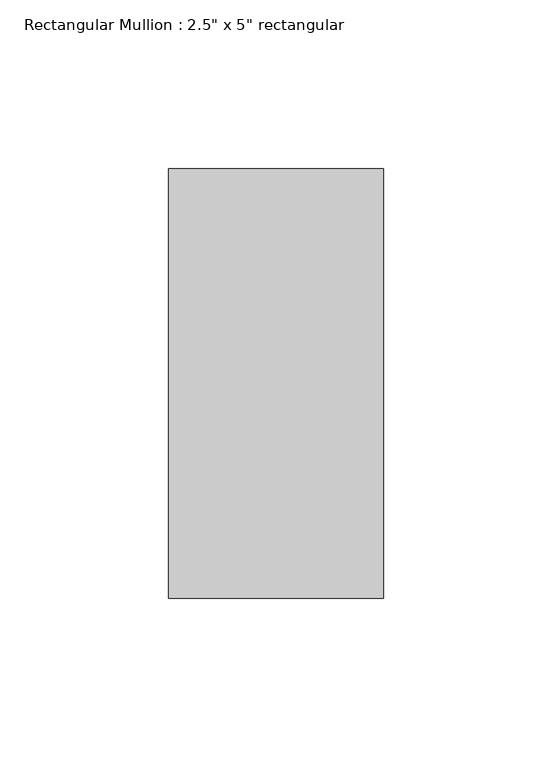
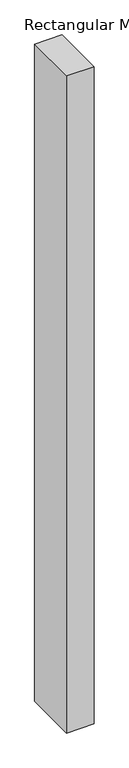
"""IFC4 building model written with IfcOpenShell, lengths in millimetres: member geometry."""

import ifcopenshell
import ifcopenshell.guid

model = None  # the IFC model being written
_history = None  # IfcOwnerHistory: only IFC2X3 demands one
_inside = {}  # id of a spatial element -> (the spatial element, [elements in it])
_under = {}  # id of a project, library or spatial element -> (it, [spatial elements below it])
_declared = {}  # id of a project -> (the project, [libraries it declares])
_typed = {}  # id of a type object -> (the type object, [elements of that type])
_made_of = {}  # id of a material, layer set ... -> (it, [elements and type objects made of it])


def new_model(schema):
    """Start an empty IFC model of exactly this schema.

    Asked for "IFC4X3", IfcOpenShell would pick the latest addendum, in which some entities
    have other attributes; the version numbers below select the first issue.
    IFC2X3 requires an IfcOwnerHistory on every rooted entity: one is made here for all.
    """
    global model, _history
    if schema == "IFC4X3":
        model = ifcopenshell.file(schema_version=(4, 3, 0, 0))
    else:
        model = ifcopenshell.file(schema=schema)
    _inside.clear()
    _under.clear()
    _declared.clear()
    _typed.clear()
    _made_of.clear()
    _history = None
    if model.schema == "IFC2X3":
        org = make("IfcOrganization", Name="unknown")
        user = make(
            "IfcPersonAndOrganization",
            ThePerson=make("IfcPerson", FamilyName="unknown"),
            TheOrganization=org,
        )
        app = make(
            "IfcApplication",
            ApplicationDeveloper=org,
            Version="unknown",
            ApplicationFullName="unknown",
            ApplicationIdentifier="unknown",
        )
        _history = make(
            "IfcOwnerHistory",
            OwningUser=user,
            OwningApplication=app,
            ChangeAction="ADDED",
            CreationDate=0,
        )
    return model


def make(cls, **values):
    """One entity of the class cls with the attributes given. An attribute that is None is left unset."""
    return model.create_entity(
        cls, **{name: value for name, value in values.items() if value is not None}
    )


def rooted(cls, **values):
    """An entity with a GlobalId (a new one), such as an element, a storey or a relation."""
    return make(cls, GlobalId=ifcopenshell.guid.new(), OwnerHistory=_history, **values)


def si_unit(unit_type, name, prefix=None):
    """IfcSIUnit, for example si_unit("LENGTHUNIT", "METRE", prefix="MILLI")."""
    return make("IfcSIUnit", UnitType=unit_type, Prefix=prefix, Name=name)


def assignment(units):
    """IfcUnitAssignment: the units of a project."""
    return None if units is None else make("IfcUnitAssignment", Units=units)


def point(xyz):
    """IfcCartesianPoint."""
    return None if xyz is None else make("IfcCartesianPoint", Coordinates=xyz)


def direction(xyz):
    """IfcDirection."""
    return None if xyz is None else make("IfcDirection", DirectionRatios=xyz)


def frame(location, z_axis=None, x_axis=None):
    """IfcAxis2Placement3D, a coordinate frame: its origin and axes. An axis left out is left unset."""
    return make(
        "IfcAxis2Placement3D",
        Location=point(location),
        Axis=direction(z_axis),
        RefDirection=direction(x_axis),
    )


def origin():
    """The frame at (0, 0, 0) with its axes left unset."""
    return frame((0.0, 0.0, 0.0))


def place(relative_to, where):
    """IfcLocalPlacement: puts the frame where relative to a parent placement (None: the world)."""
    return make(
        "IfcLocalPlacement", PlacementRelTo=relative_to, RelativePlacement=where
    )


def context(
    kind, dimensions, precision=None, world=None, true_north=None, identifier=None
):
    """IfcGeometricRepresentationContext, for example the 3D "Model" context."""
    return make(
        "IfcGeometricRepresentationContext",
        ContextIdentifier=identifier,
        ContextType=kind,
        CoordinateSpaceDimension=dimensions,
        Precision=precision,
        WorldCoordinateSystem=world,
        TrueNorth=true_north,
    )


def project(units=None, contexts=None):
    """IfcProject with its units and contexts."""
    return rooted(
        "IfcProject",
        Name="project",
        RepresentationContexts=contexts,
        UnitsInContext=assignment(units),
    )


def spatial(cls, under=None, at=None, **own):
    """A site, building, storey or space (cls), placed at a placement, below another one or the project."""
    s = rooted(cls, ObjectPlacement=at, **own)
    if under is not None:
        _under.setdefault(under.id(), (under, []))[1].append(s)
    return s


def polyline(points):
    """IfcPolyline through the points."""
    return make("IfcPolyline", Points=[point(p) for p in points])


def outline(outer, holes=None, kind="AREA"):
    """IfcArbitraryClosedProfileDef: a profile drawn as a closed curve; with holes, ...WithVoids."""
    if holes is None:
        return make("IfcArbitraryClosedProfileDef", ProfileType=kind, OuterCurve=outer)
    return make(
        "IfcArbitraryProfileDefWithVoids",
        ProfileType=kind,
        OuterCurve=outer,
        InnerCurves=holes,
    )


def extrude(swept, where, along, depth):
    """IfcExtrudedAreaSolid: the profile swept, set in the frame where, extruded along a direction by depth."""
    return make(
        "IfcExtrudedAreaSolid",
        SweptArea=swept,
        Position=where,
        ExtrudedDirection=direction(along),
        Depth=depth,
    )


def shape(context_of_items, identifier, shape_type, items):
    """IfcShapeRepresentation: the items that make up one representation, for example the "Body"."""
    return make(
        "IfcShapeRepresentation",
        ContextOfItems=context_of_items,
        RepresentationIdentifier=identifier,
        RepresentationType=shape_type,
        Items=items,
    )


def source(mapping_origin, context_of_items, identifier, shape_type, items):
    """IfcRepresentationMap: a shape defined once, which mapped items show again and again."""
    return make(
        "IfcRepresentationMap",
        MappingOrigin=mapping_origin,
        MappedRepresentation=shape(context_of_items, identifier, shape_type, items),
    )


def transform(
    local_origin,
    x_axis=None,
    y_axis=None,
    z_axis=None,
    scale=None,
    scale2=None,
    scale3=None,
    uniform=True,
):
    """IfcCartesianTransformationOperator3D, or its non-uniform kind. x_axis, y_axis, z_axis: its Axis1, 2, 3."""
    if uniform:
        return make(
            "IfcCartesianTransformationOperator3D",
            Axis1=direction(x_axis),
            Axis2=direction(y_axis),
            LocalOrigin=point(local_origin),
            Scale=scale,
            Axis3=direction(z_axis),
        )
    return make(
        "IfcCartesianTransformationOperator3DnonUniform",
        Axis1=direction(x_axis),
        Axis2=direction(y_axis),
        LocalOrigin=point(local_origin),
        Scale=scale,
        Axis3=direction(z_axis),
        Scale2=scale2,
        Scale3=scale3,
    )


def mapped(mapping_source, mapping_target):
    """IfcMappedItem: shows the shape of a source again, moved by a transform."""
    return make(
        "IfcMappedItem", MappingSource=mapping_source, MappingTarget=mapping_target
    )


def made_of(thing, what):
    """Note that an element or type object is made of a material, layer set ...; save() writes the relation."""
    if what is not None:
        _made_of.setdefault(what.id(), (what, []))[1].append(thing)
    return thing


def element(
    cls,
    number,
    at=None,
    inside=None,
    cuts=None,
    type_object=None,
    material=None,
    context=None,
    identifier="Body",
    shape_type=None,
    held_by="IfcProductDefinitionShape",
    body=None,
    shapes=None,
    **own,
):
    """One element of the class cls, such as IfcWall. Its Tag is "e" and its number.

    at: its placement. inside: the storey or other place that contains it. cuts: it is an
    opening in that element (IfcRelVoidsElement). A single representation is given by context,
    identifier, shape_type and body (its items); several are given by shapes. held_by: the class
    of the entity that holds the representations. save() writes the other relations.
    """
    e = rooted(cls, Tag="e%d" % number, ObjectPlacement=at, **own)
    if body is not None:
        shapes = [shape(context, identifier, shape_type, body)]
    if shapes is not None:
        e.Representation = make(held_by, Representations=shapes)
    if inside is not None:
        _inside.setdefault(inside.id(), (inside, []))[1].append(e)
    if cuts is not None:
        rooted(
            "IfcRelVoidsElement", RelatingBuildingElement=cuts, RelatedOpeningElement=e
        )
    if type_object is not None:
        _typed.setdefault(type_object.id(), (type_object, []))[1].append(e)
    return made_of(e, material)


def aggregate(whole, parts):
    """IfcRelAggregates: a whole, such as a stair, and the parts it consists of."""
    return rooted("IfcRelAggregates", RelatingObject=whole, RelatedObjects=parts)


def save(model, path):
    """Write the relations noted so far, then the file.

    IfcRelAggregates (storeys below a building ...), IfcRelContainedInSpatialStructure (elements
    in a storey), IfcRelDefinesByType, IfcRelAssociatesMaterial and IfcRelDeclares: one each for
    every whole, place, type object, material and project.
    """
    for whole, parts in _under.values():
        aggregate(whole, parts)
    for where, things in _inside.values():
        rooted(
            "IfcRelContainedInSpatialStructure",
            RelatedElements=things,
            RelatingStructure=where,
        )
    for kind, things in _typed.values():
        rooted("IfcRelDefinesByType", RelatedObjects=things, RelatingType=kind)
    for what, things in _made_of.values():
        rooted("IfcRelAssociatesMaterial", RelatedObjects=things, RelatingMaterial=what)
    for by, libraries in _declared.values():
        rooted("IfcRelDeclares", RelatingContext=by, RelatedDefinitions=libraries)
    model.write(path)


def member_d9503739(model_context):
    return source(origin(), model_context, "Body", "SweptSolid", [
        extrude(outline(polyline([(0.0, 63.5), (0.0, -63.5), (-63.5, -63.5), (-63.5, 63.5), (0.0, 63.5)])), frame((0.0, 0.0, -1600.2), z_axis=(0.0, 0.0, 1.0), x_axis=(1.0, 0.0, 0.0)), (0.0, 0.0, 1.0), 1600.2),
    ])


if __name__ == "__main__":
    model = new_model("IFC4")
    model_context = context("Model", 3, world=origin())
    ifc_project = project(units=[si_unit("LENGTHUNIT", "METRE", prefix="MILLI")], contexts=[model_context])
    site = spatial("IfcSite", under=ifc_project)
    building = spatial("IfcBuilding", under=site)
    placement = place(None, origin())
    member_shape = member_d9503739(model_context)
    element("IfcMember", 1, ObjectType="Rectangular Mullion : 2.5\" x 5\" rectangular", at=placement, inside=building, context=model_context, shape_type="MappedRepresentation", body=[
        mapped(member_shape, transform((0.0, 0.0, 0.0), x_axis=(1.0, 0.0, 0.0), y_axis=(0.0, 1.0, 0.0), z_axis=(0.0, 0.0, 1.0))),
    ])
    save(model, "model.ifc")
